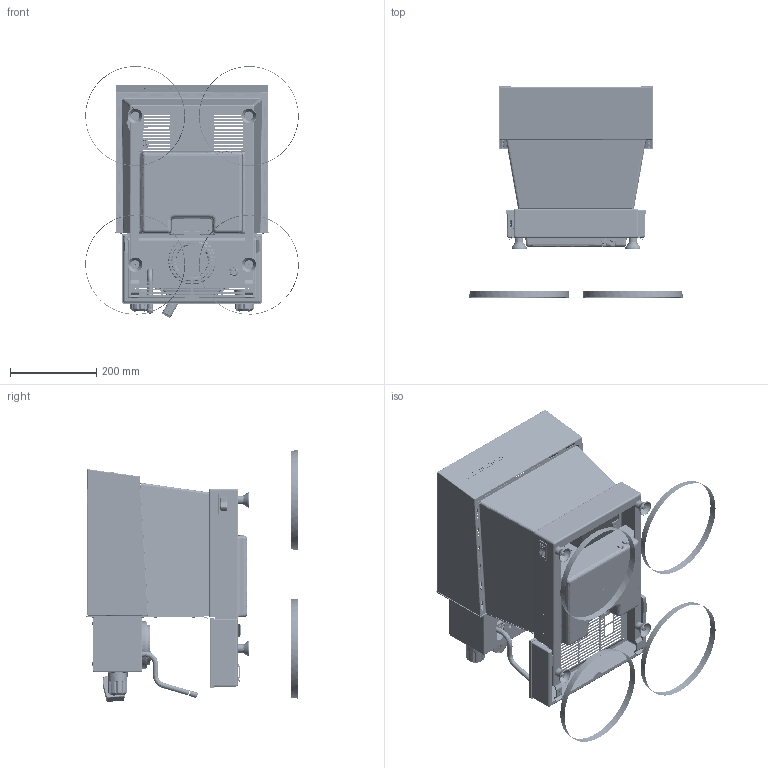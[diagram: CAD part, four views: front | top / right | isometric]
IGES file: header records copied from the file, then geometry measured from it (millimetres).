
Start section: SolidWorks IGES file using analytic representation for surfaces
Global section: file name: C:\Users\vincenzo\LA MARZOCCO SRL\ATC - Documenti\LM SUPPORT PACKAGE\FULL TECHNICAL DOCUMENTATION\3D MODELS DRAWINGS FOR CUSTOMER USE\LINEAMINI 2023\LM0033435_LINEAMINI-2023.IGS; native system: SolidWorks 2021; preprocessor: SolidWorks 2021; author: vincenzo; date: 231220.104032; units: millimetre
Bounding box: 495.73 x 491.32 x 584.29 mm (x, y, z)
Surface area: 2219089.5 mm2 (no closed solid volume)
Topology: 0 solids, 0 shells, 10841 faces, 99909 edges, 99782 vertices
Faces by surface type: bspline 7538, revolution 3303
